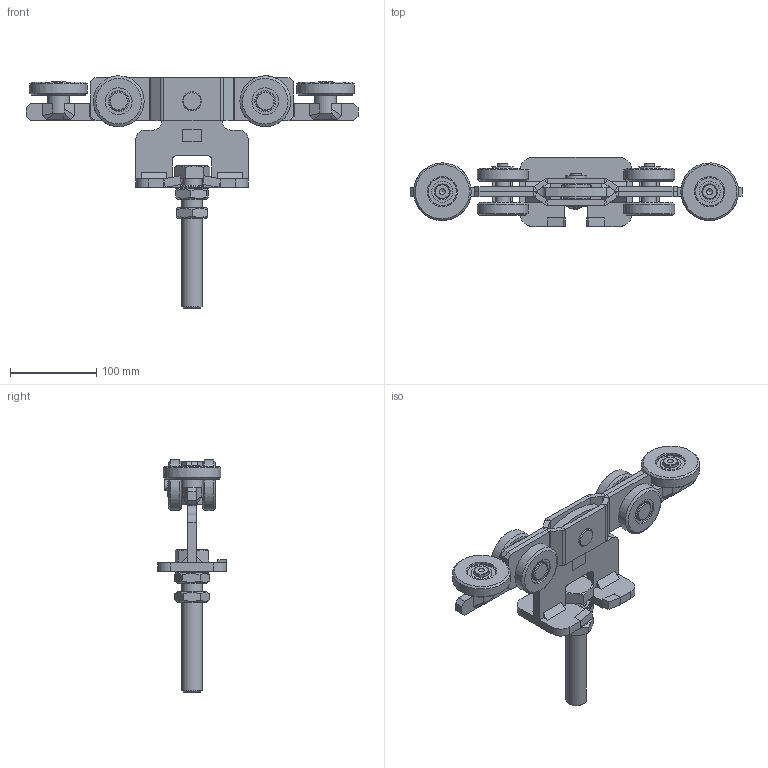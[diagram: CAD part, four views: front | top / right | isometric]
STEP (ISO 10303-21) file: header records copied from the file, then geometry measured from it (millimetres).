
FILE_DESCRIPTION(/* description */ (''),/* implementation_level */ '2;1');
FILE_NAME(/* name */ 'Q:\sge-ma\Produktmanagement-STB\STB\Workspace\stp\010337916.stp',/* time_stamp */ '2016-07-14T15:09:24+02:00',/* author */ ('avschreier'),/* organization */ (''),/* preprocessor_version */ 'ST-DEVELOPER v16.1',/* originating_system */ 'Autodesk Inventor 2016',/* authorisation */ '');
FILE_SCHEMA (('AUTOMOTIVE_DESIGN { 1 0 10303 214 3 1 1 }'));
Length unit declared in the file: millimetre
Products named in the file (22): 010337916_Schweißnähte; 000302080; 000302020; 000302041; 336300049_Schweißnähte; 000302034; 000302098; 337000280; DIN_625-6203_ZZ_en; 000301999; 000301998; 336300049; 000302018; 000302042; 337000287; 000303241; DIN_1440-12_en; DIN_6916-17_en; DIN_EN_ISO_4035-M24x2_en; DIN_6798-A_25_en; DIN_EN_ISO_4017-M24x150_en; 010337916
Assembly tree (41 placements, depth 4):
  010337916
    010337916_Schweißnähte
    000302080
    000302020
    000302041
    336300049
      336300049_Schweißnähte
      000302034  x2
      000302098  x2
      000301999  x2
        337000280
        DIN_625-6203_ZZ_en
      000301998  x2
    000302018  x2
    000302042  x8
    000303241  x4
      337000287
      DIN_625-6203_ZZ_en
    DIN_1440-12_en  x3
    DIN_6916-17_en  x2
    DIN_EN_ISO_4035-M24x2_en  x2
    DIN_6798-A_25_en
    DIN_EN_ISO_4017-M24x150_en
Bounding box: 385 x 80 x 269.47 mm (x, y, z)
Volume: 728806.4 mm3; surface area: 274193.1 mm2
Topology: 52 solids, 58 shells, 1012 faces, 2645 edges, 1712 vertices
Faces by surface type: plane 533, cylinder 248, torus 108, cone 63, sphere 42, bspline 18
Full cylindrical faces by diameter (mm): 12 x6, 16.9 x5, 17 x8, 17.2 x2, 17.3 x1, 21.835 x2, 22 x3, 22.376 x1, 24 x1, 24.36 x24, 25 x6, 30 x2, 31 x4, 32.64 x24, 33.2 x1, 35 x2, 40 x12
Entity records: 16252 total; most frequent: CARTESIAN_POINT 3257, DIRECTION 2693, ORIENTED_EDGE 2440, EDGE_CURVE 1220, AXIS2_PLACEMENT_3D 977, VERTEX_POINT 821, LINE 739, VECTOR 739
